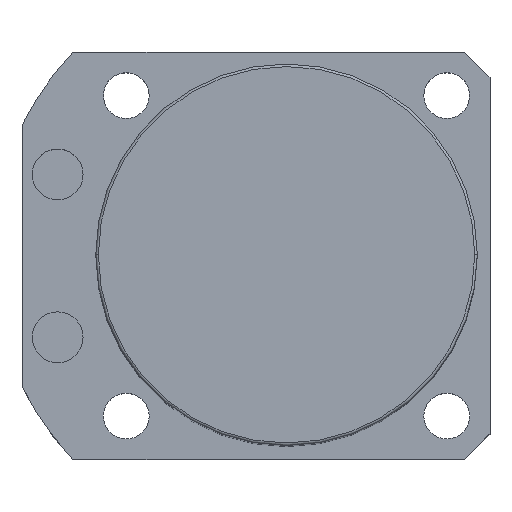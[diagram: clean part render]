
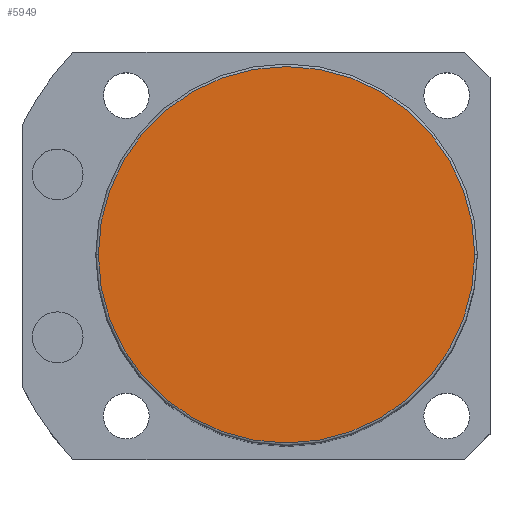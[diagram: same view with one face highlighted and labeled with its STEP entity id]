
A CAD part, top view. The second image highlights one B-rep face of the part: STEP entity #5949.
In plain terms, the highlighted planar face has unit normal (0, 0, 1).
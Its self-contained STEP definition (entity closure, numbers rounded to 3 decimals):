
#358 = DIRECTION ( 'NONE',  ( 0., 0., 1. ) ) ;
#559 = PLANE ( 'NONE',  #1930 ) ;
#579 = CARTESIAN_POINT ( 'NONE',  ( 0., 0., 140.5 ) ) ;
#986 = CARTESIAN_POINT ( 'NONE',  ( 0., 0., 140.5 ) ) ;
#1534 = DIRECTION ( 'NONE',  ( 0., 0., 1. ) ) ;
#1560 = DIRECTION ( 'NONE',  ( 1., 0., 0. ) ) ;
#1702 = FACE_OUTER_BOUND ( 'NONE', #2170, .T. ) ;
#1930 = AXIS2_PLACEMENT_3D ( 'NONE', #579, #1534, #1560 ) ;
#2019 = EDGE_CURVE ( 'NONE', #3145, #2515, #3708, .T. ) ;
#2170 = EDGE_LOOP ( 'NONE', ( #4936, #5281 ) ) ;
#2345 = DIRECTION ( 'NONE',  ( 1., 0., 0. ) ) ;
#2410 = EDGE_CURVE ( 'NONE', #2515, #3145, #5794, .T. ) ;
#2515 = VERTEX_POINT ( 'NONE', #5164 ) ;
#2702 = CARTESIAN_POINT ( 'NONE',  ( 37., 0., 140.5 ) ) ;
#3145 = VERTEX_POINT ( 'NONE', #2702 ) ;
#3708 = CIRCLE ( 'NONE', #6187, 37. ) ;
#3965 = AXIS2_PLACEMENT_3D ( 'NONE', #986, #5486, #5524 ) ;
#4936 = ORIENTED_EDGE ( 'NONE', *, *, #2019, .T. ) ;
#5164 = CARTESIAN_POINT ( 'NONE',  ( -37., 0., 140.5 ) ) ;
#5281 = ORIENTED_EDGE ( 'NONE', *, *, #2410, .T. ) ;
#5371 = CARTESIAN_POINT ( 'NONE',  ( 0., 0., 140.5 ) ) ;
#5486 = DIRECTION ( 'NONE',  ( 0., 0., 1. ) ) ;
#5524 = DIRECTION ( 'NONE',  ( 1., 0., 0. ) ) ;
#5794 = CIRCLE ( 'NONE', #3965, 37. ) ;
#5949 = ADVANCED_FACE ( 'NONE', ( #1702 ), #559, .T. ) ;
#6187 = AXIS2_PLACEMENT_3D ( 'NONE', #5371, #358, #2345 ) ;
